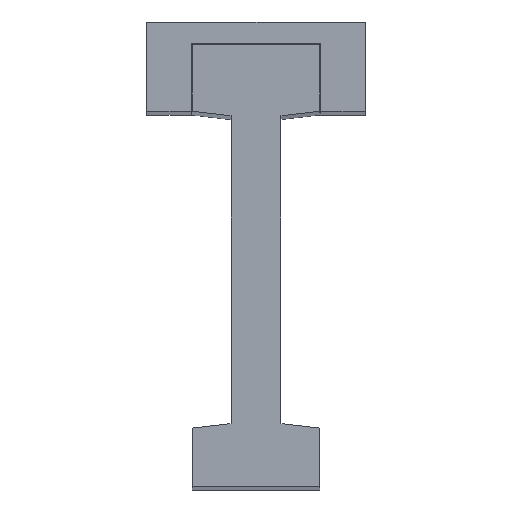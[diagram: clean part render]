
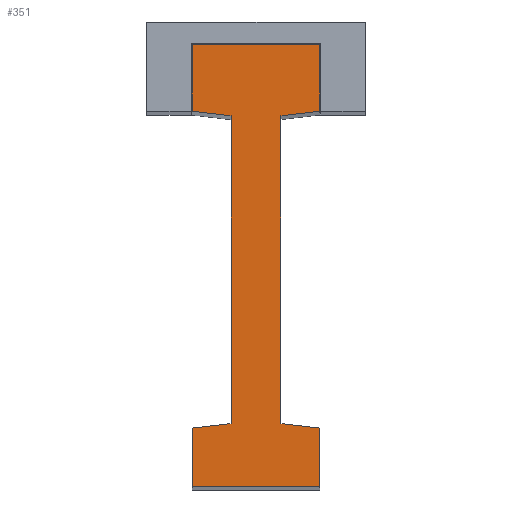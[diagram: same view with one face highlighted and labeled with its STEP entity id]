
A CAD part, top view. The second image highlights one B-rep face of the part: STEP entity #351.
In plain terms, the highlighted planar face has unit normal (0, 0, 1).
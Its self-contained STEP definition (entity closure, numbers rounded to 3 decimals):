
#87 = LINE ( 'NONE', #6228, #8668 ) ;
#90 = ORIENTED_EDGE ( 'NONE', *, *, #1050, .T. ) ;
#116 = VECTOR ( 'NONE', #6859, 1000. ) ;
#312 = EDGE_CURVE ( 'NONE', #7228, #5337, #2066, .T. ) ;
#316 = VERTEX_POINT ( 'NONE', #786 ) ;
#342 = FACE_OUTER_BOUND ( 'NONE', #8129, .T. ) ;
#351 = ADVANCED_FACE ( 'NONE', ( #342 ), #2933, .T. ) ;
#354 = CARTESIAN_POINT ( 'NONE',  ( 57.95, 316.204, 785.517 ) ) ;
#390 = DIRECTION ( 'NONE',  ( 0., -1., 0. ) ) ;
#492 = ORIENTED_EDGE ( 'NONE', *, *, #1395, .T. ) ;
#604 = CARTESIAN_POINT ( 'NONE',  ( 57.95, 316.204, 785.517 ) ) ;
#653 = CARTESIAN_POINT ( 'NONE',  ( 86.45, 301.204, 785.517 ) ) ;
#703 = CARTESIAN_POINT ( 'NONE',  ( 57.95, 217.204, 785.517 ) ) ;
#786 = CARTESIAN_POINT ( 'NONE',  ( 86.45, 217.204, 785.517 ) ) ;
#885 = EDGE_CURVE ( 'NONE', #5727, #2670, #6883, .T. ) ;
#953 = DIRECTION ( 'NONE',  ( 1., 0., 0. ) ) ;
#1050 = EDGE_CURVE ( 'NONE', #5766, #2732, #1158, .T. ) ;
#1073 = CARTESIAN_POINT ( 'NONE',  ( 77.8, 231.204, 785.517 ) ) ;
#1158 = LINE ( 'NONE', #7292, #7689 ) ;
#1395 = EDGE_CURVE ( 'NONE', #316, #5766, #3055, .T. ) ;
#1534 = LINE ( 'NONE', #6401, #5934 ) ;
#1667 = CARTESIAN_POINT ( 'NONE',  ( 86.45, 217.204, 785.517 ) ) ;
#1741 = DIRECTION ( 'NONE',  ( 0., 1., 0. ) ) ;
#1985 = ORIENTED_EDGE ( 'NONE', *, *, #4332, .F. ) ;
#2041 = ORIENTED_EDGE ( 'NONE', *, *, #3493, .T. ) ;
#2066 = LINE ( 'NONE', #653, #116 ) ;
#2075 = EDGE_CURVE ( 'NONE', #3105, #6019, #6416, .T. ) ;
#2330 = DIRECTION ( 'NONE',  ( 0., 1., 0. ) ) ;
#2370 = CARTESIAN_POINT ( 'NONE',  ( 57.95, 217.204, 785.517 ) ) ;
#2446 = LINE ( 'NONE', #1073, #8224 ) ;
#2670 = VERTEX_POINT ( 'NONE', #6102 ) ;
#2732 = VERTEX_POINT ( 'NONE', #6524 ) ;
#2739 = DIRECTION ( 'NONE',  ( 1., 0., 0. ) ) ;
#2870 = DIRECTION ( 'NONE',  ( 0., -1., 0. ) ) ;
#2933 = PLANE ( 'NONE',  #3522 ) ;
#3055 = LINE ( 'NONE', #1667, #4695 ) ;
#3105 = VERTEX_POINT ( 'NONE', #604 ) ;
#3200 = LINE ( 'NONE', #6005, #6169 ) ;
#3232 = CARTESIAN_POINT ( 'NONE',  ( 86.45, 316.204, 785.517 ) ) ;
#3302 = ORIENTED_EDGE ( 'NONE', *, *, #885, .T. ) ;
#3393 = CARTESIAN_POINT ( 'NONE',  ( 57.95, 217.204, 785.517 ) ) ;
#3493 = EDGE_CURVE ( 'NONE', #2732, #7228, #2446, .T. ) ;
#3522 = AXIS2_PLACEMENT_3D ( 'NONE', #2370, #6989, #953 ) ;
#3721 = VECTOR ( 'NONE', #2870, 1000. ) ;
#3816 = VECTOR ( 'NONE', #7749, 1000. ) ;
#3833 = VECTOR ( 'NONE', #2739, 1000. ) ;
#3896 = VERTEX_POINT ( 'NONE', #5847 ) ;
#4139 = EDGE_CURVE ( 'NONE', #8334, #316, #5954, .T. ) ;
#4186 = CARTESIAN_POINT ( 'NONE',  ( 66.6, 298.704, 785.517 ) ) ;
#4332 = EDGE_CURVE ( 'NONE', #5727, #6019, #8025, .T. ) ;
#4438 = EDGE_CURVE ( 'NONE', #6948, #3105, #87, .T. ) ;
#4460 = CARTESIAN_POINT ( 'NONE',  ( 86.45, 230.204, 785.517 ) ) ;
#4695 = VECTOR ( 'NONE', #2330, 1000. ) ;
#4967 = EDGE_CURVE ( 'NONE', #2670, #3896, #1534, .T. ) ;
#5177 = CARTESIAN_POINT ( 'NONE',  ( 77.8, 300.204, 785.517 ) ) ;
#5207 = ORIENTED_EDGE ( 'NONE', *, *, #8445, .T. ) ;
#5231 = DIRECTION ( 'NONE',  ( 0., 1., 0. ) ) ;
#5337 = VERTEX_POINT ( 'NONE', #6459 ) ;
#5468 = ORIENTED_EDGE ( 'NONE', *, *, #4139, .T. ) ;
#5586 = DIRECTION ( 'NONE',  ( -1., 0., 0. ) ) ;
#5714 = CARTESIAN_POINT ( 'NONE',  ( 57.95, 230.204, 785.517 ) ) ;
#5717 = CARTESIAN_POINT ( 'NONE',  ( 57.95, 301.204, 785.517 ) ) ;
#5727 = VERTEX_POINT ( 'NONE', #5804 ) ;
#5743 = ORIENTED_EDGE ( 'NONE', *, *, #4438, .T. ) ;
#5766 = VERTEX_POINT ( 'NONE', #4460 ) ;
#5804 = CARTESIAN_POINT ( 'NONE',  ( 66.6, 300.204, 785.517 ) ) ;
#5847 = CARTESIAN_POINT ( 'NONE',  ( 57.95, 230.204, 785.517 ) ) ;
#5934 = VECTOR ( 'NONE', #6261, 1000. ) ;
#5954 = LINE ( 'NONE', #3393, #3833 ) ;
#5982 = CARTESIAN_POINT ( 'NONE',  ( 57.95, 301.204, 785.517 ) ) ;
#6005 = CARTESIAN_POINT ( 'NONE',  ( 86.45, 301.204, 785.517 ) ) ;
#6019 = VERTEX_POINT ( 'NONE', #5717 ) ;
#6102 = CARTESIAN_POINT ( 'NONE',  ( 66.6, 231.204, 785.517 ) ) ;
#6169 = VECTOR ( 'NONE', #5231, 1000. ) ;
#6228 = CARTESIAN_POINT ( 'NONE',  ( 86.45, 316.204, 785.517 ) ) ;
#6261 = DIRECTION ( 'NONE',  ( -0.993, -0.115, 0. ) ) ;
#6401 = CARTESIAN_POINT ( 'NONE',  ( 66.6, 231.204, 785.517 ) ) ;
#6416 = LINE ( 'NONE', #354, #7916 ) ;
#6455 = LINE ( 'NONE', #5714, #3816 ) ;
#6459 = CARTESIAN_POINT ( 'NONE',  ( 86.45, 301.204, 785.517 ) ) ;
#6524 = CARTESIAN_POINT ( 'NONE',  ( 77.8, 231.204, 785.517 ) ) ;
#6859 = DIRECTION ( 'NONE',  ( 0.993, 0.115, 0. ) ) ;
#6883 = LINE ( 'NONE', #4186, #3721 ) ;
#6948 = VERTEX_POINT ( 'NONE', #3232 ) ;
#6989 = DIRECTION ( 'NONE',  ( 0., 0., 1. ) ) ;
#7189 = ORIENTED_EDGE ( 'NONE', *, *, #312, .T. ) ;
#7228 = VERTEX_POINT ( 'NONE', #5177 ) ;
#7292 = CARTESIAN_POINT ( 'NONE',  ( 86.45, 230.204, 785.517 ) ) ;
#7463 = ORIENTED_EDGE ( 'NONE', *, *, #2075, .T. ) ;
#7689 = VECTOR ( 'NONE', #8024, 1000. ) ;
#7749 = DIRECTION ( 'NONE',  ( 0., -1., 0. ) ) ;
#7916 = VECTOR ( 'NONE', #390, 1000. ) ;
#8017 = ORIENTED_EDGE ( 'NONE', *, *, #8267, .T. ) ;
#8024 = DIRECTION ( 'NONE',  ( -0.993, 0.115, 0. ) ) ;
#8025 = LINE ( 'NONE', #5982, #8066 ) ;
#8066 = VECTOR ( 'NONE', #8585, 1000. ) ;
#8129 = EDGE_LOOP ( 'NONE', ( #7463, #1985, #3302, #8249, #5207, #5468, #492, #90, #2041, #7189, #8017, #5743 ) ) ;
#8224 = VECTOR ( 'NONE', #1741, 1000. ) ;
#8249 = ORIENTED_EDGE ( 'NONE', *, *, #4967, .T. ) ;
#8267 = EDGE_CURVE ( 'NONE', #5337, #6948, #3200, .T. ) ;
#8334 = VERTEX_POINT ( 'NONE', #703 ) ;
#8445 = EDGE_CURVE ( 'NONE', #3896, #8334, #6455, .T. ) ;
#8585 = DIRECTION ( 'NONE',  ( -0.993, 0.115, 0. ) ) ;
#8668 = VECTOR ( 'NONE', #5586, 1000. ) ;
